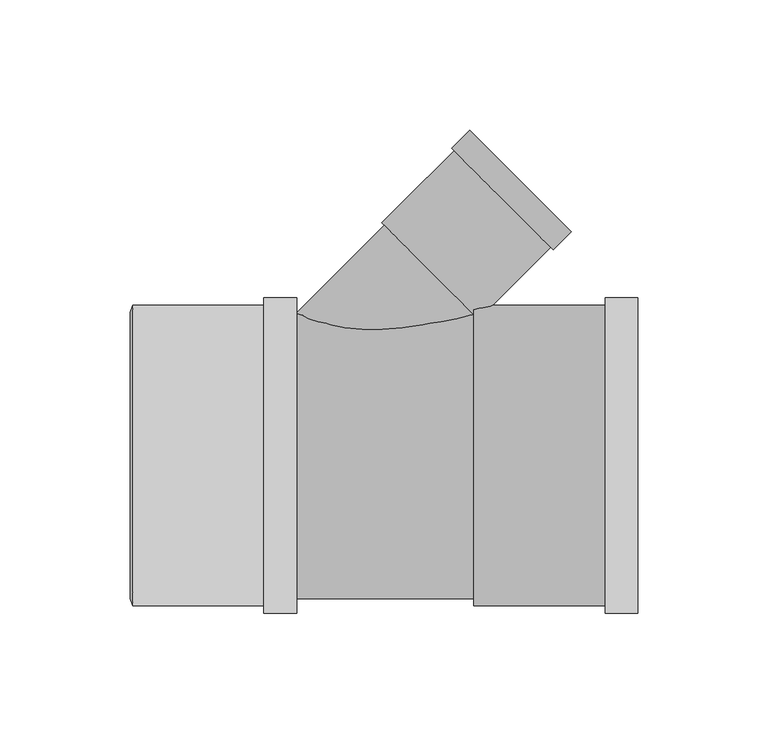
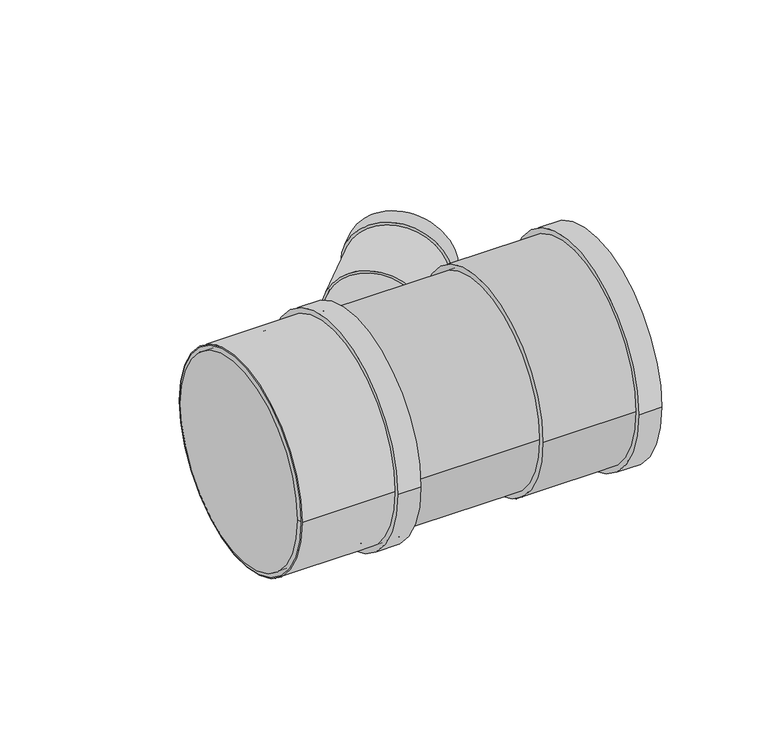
"""IFC4 building model written with IfcOpenShell, lengths in millimetres: pipe fitting geometry, Superdrain HTEA Branch : Superdrain HTEA Branch."""

from ifc_helpers import new_model, si_unit, point, frame, origin, origin_2d, place, context, project, spatial, polyline, circle_curve, trimmed, segment, composite_curve, outline, extrude, source, transform, mapped, element, save
from ifc_brep_helpers import plane_surface, cylinder_surface, revolved_surface, advanced_brep


def pipe_fitting_9d8878d9(model_context):
    return source(origin(), model_context, "Body", "SolidModel", [
        extrude(outline(composite_curve([segment(trimmed(circle_curve(origin_2d(), 57.75), [point((57.75, 0.0))], [point((-57.75, 0.0))], False, "CARTESIAN"), True, "CONTINUOUS"), segment(trimmed(circle_curve(origin_2d(), 57.75), [point((-57.75, 0.0))], [point((57.75, 0.0))], False, "CARTESIAN"), True, "CONTINUOUS")], self_intersect=False), holes=[composite_curve([segment(trimmed(circle_curve(origin_2d(), 55.0), [point((55.0, 0.0))], [point((-55.0, 0.0))], True, "CARTESIAN"), True, "CONTINUOUS"), segment(trimmed(circle_curve(origin_2d(), 55.0), [point((-55.0, 0.0))], [point((55.0, 0.0))], True, "CARTESIAN"), True, "CONTINUOUS")], self_intersect=False)]), frame((-43.4, 0.0, 0.0), z_axis=(1.0, 0.0, 0.0), x_axis=(0.0, 1.0, 0.0)), (0.0, 0.0, 1.0), 63.0),
        extrude(outline(composite_curve([segment(trimmed(circle_curve(origin_2d(), 60.6375), [point((60.6375, 0.0))], [point((-60.6375, 0.0))], False, "CARTESIAN"), True, "CONTINUOUS"), segment(trimmed(circle_curve(origin_2d(), 60.6375), [point((-60.6375, 0.0))], [point((60.6375, 0.0))], False, "CARTESIAN"), True, "CONTINUOUS")], self_intersect=False), holes=[composite_curve([segment(trimmed(circle_curve(origin_2d(), 55.0), [point((55.0, 0.0))], [point((-55.0, 0.0))], True, "CARTESIAN"), True, "CONTINUOUS"), segment(trimmed(circle_curve(origin_2d(), 55.0), [point((-55.0, 0.0))], [point((55.0, 0.0))], True, "CARTESIAN"), True, "CONTINUOUS")], self_intersect=False)]), frame((7.0, 0.0, 0.0), z_axis=(1.0, 0.0, 0.0), x_axis=(0.0, 1.0, 0.0)), (0.0, 0.0, 1.0), 12.6),
        advanced_brep(
        [(-44.4, 55.0, 0.0), (-44.4, -55.0, 0.0), (-43.4, 57.75, 0.0), (-43.4, -57.75, 0.0)],
        [
            (0, 1, circle_curve(frame((-44.4, 0.0, 0.0), z_axis=(-1.0, 0.0, 0.0), x_axis=(0.0, 1.0, 0.0)), 55.0)),
            (1, 0, circle_curve(frame((-44.4, 0.0, 0.0), z_axis=(-1.0, 0.0, 0.0), x_axis=(0.0, -1.0, 0.0)), 55.0)),
            (2, 3, circle_curve(frame((-43.4, 0.0, 0.0), z_axis=(1.0, 0.0, 0.0), x_axis=(0.0, -1.0, 0.0)), 57.75)),
            (3, 2, circle_curve(frame((-43.4, 0.0, 0.0), z_axis=(1.0, 0.0, 0.0), x_axis=(0.0, 1.0, 0.0)), 57.75)),
            (3, 1),
            (0, 2),
        ],
        [
            plane_surface(frame((-44.4, 0.0, 0.0), z_axis=(-1.0, 0.0, 0.0), x_axis=(0.0, 0.0, -1.0))),
            plane_surface(frame((-43.4, 0.0, 0.0), z_axis=(1.0, 0.0, 0.0), x_axis=(0.0, 0.0, -1.0))),
            revolved_surface(polyline([(-44.4, 55.0, 0.0), (-43.4, 57.75, 0.0)]), (-64.4, 0.0, 0.0), (1.0, 0.0, 0.0)),
            revolved_surface(polyline([(-44.4, -55.0, 0.0), (-43.4, -57.75, 0.0)]), (-64.4, 0.0, 0.0), (1.0, 0.0, 0.0)),
        ],
        [
            (0, [[1, 2]]),
            (1, [[3, 4]]),
            (2, [[-4, 5, -1, 6]]),
            (3, [[-3, -6, -2, -5]]),
        ],
    ),
        advanced_brep(
        [(87.6, -57.75, 0.0), (87.6, 57.75, 0.0), (150.6, -57.75, 0.0), (150.6, 57.75, 0.0), (150.6, -55.0, 0.0), (150.6, 55.0, 0.0), (88.6, -55.0, 0.0), (88.6, 55.0, 0.0)],
        [
            (0, 1, circle_curve(frame((87.6, 0.0, 0.0), z_axis=(-1.0, 0.0, 0.0), x_axis=(0.0, 1.0, 0.0)), 57.75)),
            (1, 0, circle_curve(frame((87.6, 0.0, 0.0), z_axis=(-1.0, 0.0, 0.0), x_axis=(0.0, 1.0, 0.0)), 57.75)),
            (2, 3, circle_curve(frame((150.6, 0.0, 0.0), z_axis=(1.0, 0.0, 0.0), x_axis=(0.0, 1.0, 0.0)), 57.75)),
            (3, 2, circle_curve(frame((150.6, 0.0, 0.0), z_axis=(1.0, 0.0, 0.0), x_axis=(0.0, 1.0, 0.0)), 57.75)),
            (4, 5, circle_curve(frame((150.6, 0.0, 0.0), z_axis=(-1.0, 0.0, 0.0), x_axis=(0.0, 1.0, 0.0)), 55.0)),
            (5, 4, circle_curve(frame((150.6, 0.0, 0.0), z_axis=(-1.0, 0.0, 0.0), x_axis=(0.0, 1.0, 0.0)), 55.0)),
            (0, 2),
            (3, 1),
            (6, 7, circle_curve(frame((88.6, 0.0, 0.0), z_axis=(-1.0, 0.0, 0.0), x_axis=(0.0, 1.0, 0.0)), 55.0)),
            (7, 5),
            (4, 6),
            (7, 6, circle_curve(frame((88.6, 0.0, 0.0), z_axis=(-1.0, 0.0, 0.0), x_axis=(0.0, 1.0, 0.0)), 55.0)),
        ],
        [
            plane_surface(frame((87.6, 0.0, 0.0), z_axis=(-1.0, 0.0, 0.0), x_axis=(0.0, 0.0, 1.0))),
            plane_surface(frame((150.6, 0.0, 0.0), z_axis=(1.0, 0.0, 0.0), x_axis=(0.0, 0.0, 1.0))),
            cylinder_surface(frame((87.6, 0.0, 0.0), z_axis=(-1.0, 0.0, 0.0), x_axis=(0.0, 1.0, 0.0)), 57.75),
            revolved_surface(polyline([(88.6, 55.0, 0.0), (150.6, 55.0, 0.0)]), (88.6, 0.0, 0.0), (-1.0, 0.0, 0.0)),
            plane_surface(frame((88.6, 0.0, 0.0), z_axis=(1.0, 0.0, 0.0), x_axis=(0.0, 0.0, 1.0))),
        ],
        [
            (0, [[1, 2]]),
            (1, [[3, 4], [5, 6]]),
            (2, [[-1, 7, -4, 8]]),
            (2, [[-2, -8, -3, -7]]),
            (3, [[9, 10, -5, 11]]),
            (3, [[12, -11, -6, -10]]),
            (4, [[-12, -9]]),
        ],
    ),
        extrude(outline(composite_curve([segment(trimmed(circle_curve(origin_2d(), 60.6375), [point((60.6375, 0.0))], [point((-60.6375, 0.0))], False, "CARTESIAN"), True, "CONTINUOUS"), segment(trimmed(circle_curve(origin_2d(), 60.6375), [point((-60.6375, 0.0))], [point((60.6375, 0.0))], False, "CARTESIAN"), True, "CONTINUOUS")], self_intersect=False), holes=[composite_curve([segment(trimmed(circle_curve(origin_2d(), 55.0), [point((55.0, 0.0))], [point((-55.0, 0.0))], True, "CARTESIAN"), True, "CONTINUOUS"), segment(trimmed(circle_curve(origin_2d(), 55.0), [point((-55.0, 0.0))], [point((55.0, 0.0))], True, "CARTESIAN"), True, "CONTINUOUS")], self_intersect=False)]), frame((138.0, 0.0, 0.0), z_axis=(1.0, 0.0, 0.0), x_axis=(0.0, 1.0, 0.0)), (0.0, 0.0, 1.0), 12.6),
        extrude(outline(composite_curve([segment(trimmed(circle_curve(origin_2d(), 25.0), [point((0.0, 25.0))], [point((0.0, -25.0))], False, "CARTESIAN"), True, "CONTINUOUS"), segment(trimmed(circle_curve(origin_2d(), 25.0), [point((0.0, -25.0))], [point((0.0, 25.0))], False, "CARTESIAN"), True, "CONTINUOUS")], self_intersect=False)), frame((0.0, 0.0, 0.0), z_axis=(0.7071067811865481, 0.7071067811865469, 0.0), x_axis=(0.0, 0.0, 1.0)), (0.0, 0.0, 1.0), 100.2),
        extrude(outline(composite_curve([segment(trimmed(circle_curve(origin_2d(), 55.0), [point((55.0, 0.0))], [point((-55.0, 0.0))], False, "CARTESIAN"), True, "CONTINUOUS"), segment(trimmed(circle_curve(origin_2d(), 55.0), [point((-55.0, 0.0))], [point((55.0, 0.0))], False, "CARTESIAN"), True, "CONTINUOUS")], self_intersect=False)), frame((-43.4, 0.0, 0.0), z_axis=(1.0, 0.0, 0.0), x_axis=(0.0, 1.0, 0.0)), (0.0, 0.0, 1.0), 43.4),
        extrude(outline(composite_curve([segment(trimmed(circle_curve(origin_2d(), 55.0), [point((-55.0, 0.0))], [point((55.0, 0.0))], False, "CARTESIAN"), True, "CONTINUOUS"), segment(trimmed(circle_curve(origin_2d(), 55.0), [point((55.0, 0.0))], [point((-55.0, 0.0))], False, "CARTESIAN"), True, "CONTINUOUS")], self_intersect=False)), frame((0.0, 0.0, 0.0), z_axis=(1.0, 0.0, 0.0), x_axis=(0.0, 1.0, 0.0)), (0.0, 0.0, 1.0), 87.6),
        extrude(outline(composite_curve([segment(trimmed(circle_curve(origin_2d(), 27.5625), [point((0.0, 27.5625001))], [point((0.0, -27.5625001))], False, "CARTESIAN"), True, "CONTINUOUS"), segment(trimmed(circle_curve(origin_2d(), 27.5625), [point((0.0, -27.5625001))], [point((0.0, 27.5625001))], False, "CARTESIAN"), True, "CONTINUOUS")], self_intersect=False), holes=[composite_curve([segment(trimmed(circle_curve(origin_2d(), 25.0), [point((0.0, 25.0))], [point((0.0, -25.0))], True, "CARTESIAN"), True, "CONTINUOUS"), segment(trimmed(circle_curve(origin_2d(), 25.0), [point((0.0, -25.0))], [point((0.0, 25.0))], True, "CARTESIAN"), True, "CONTINUOUS")], self_intersect=False)]), frame((98.5706853, 98.5706853, 0.0), z_axis=(0.7071067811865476, 0.7071067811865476, 0.0), x_axis=(0.0, 0.0, 1.0)), (0.0, 0.0, 1.0), 9.8),
        extrude(outline(composite_curve([segment(trimmed(circle_curve(origin_2d(), 26.25), [point((0.0, 26.25))], [point((0.0, -26.25))], False, "CARTESIAN"), True, "CONTINUOUS"), segment(trimmed(circle_curve(origin_2d(), 26.25), [point((0.0, -26.25))], [point((0.0, 26.25))], False, "CARTESIAN"), True, "CONTINUOUS")], self_intersect=False), holes=[composite_curve([segment(trimmed(circle_curve(origin_2d(), 25.0), [point((0.0, 25.0))], [point((0.0, -25.0))], True, "CARTESIAN"), True, "CONTINUOUS"), segment(trimmed(circle_curve(origin_2d(), 25.0), [point((0.0, -25.0))], [point((0.0, 25.0))], True, "CARTESIAN"), True, "CONTINUOUS")], self_intersect=False)]), frame((70.8520995, 70.8520995, 0.0), z_axis=(0.7071067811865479, 0.7071067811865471, 0.0), x_axis=(0.0, 0.0, 1.0)), (0.0, 0.0, 1.0), 49.0),
    ])


if __name__ == "__main__":
    model = new_model("IFC4")
    model_context = context("Model", 3, world=origin())
    ifc_project = project(units=[si_unit("LENGTHUNIT", "METRE", prefix="MILLI")], contexts=[model_context])
    site = spatial("IfcSite", under=ifc_project)
    building = spatial("IfcBuilding", under=site)
    placement = place(None, origin())
    pipe_fitting_shape = pipe_fitting_9d8878d9(model_context)
    element("IfcPipeFitting", 1, ObjectType="Superdrain HTEA Branch : Superdrain HTEA Branch", at=placement, inside=building, context=model_context, shape_type="MappedRepresentation", body=[
        mapped(pipe_fitting_shape, transform((0.0, 0.0, 0.0), x_axis=(1.0, 0.0, 0.0), y_axis=(0.0, 1.0, 0.0), z_axis=(0.0, 0.0, 1.0))),
    ])
    save(model, "model.ifc")
